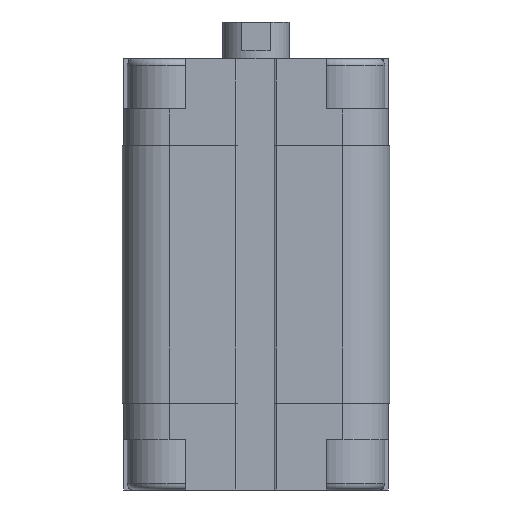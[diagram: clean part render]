
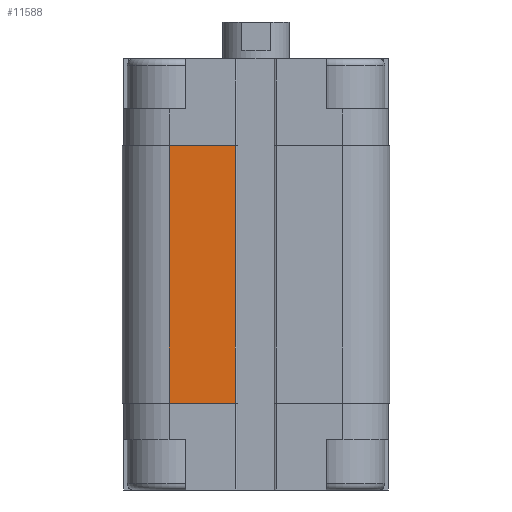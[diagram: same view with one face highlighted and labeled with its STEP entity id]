
A CAD part, front view. The second image highlights one B-rep face of the part: STEP entity #11588.
In plain terms, the highlighted planar face has unit normal (0, -1, 0).
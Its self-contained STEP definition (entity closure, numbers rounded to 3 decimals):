
#332 = VECTOR ( 'NONE', #17755, 1000. ) ;
#538 = CARTESIAN_POINT ( 'NONE',  ( -13., -20., -13. ) ) ;
#1082 = LINE ( 'NONE', #3767, #1457 ) ;
#1457 = VECTOR ( 'NONE', #9366, 1000. ) ;
#1563 = CARTESIAN_POINT ( 'NONE',  ( -13., -20., -51.5 ) ) ;
#2946 = FACE_OUTER_BOUND ( 'NONE', #14978, .T. ) ;
#2991 = EDGE_CURVE ( 'NONE', #15805, #10103, #17935, .T. ) ;
#3445 = LINE ( 'NONE', #11984, #332 ) ;
#3688 = ORIENTED_EDGE ( 'NONE', *, *, #15391, .F. ) ;
#3760 = EDGE_CURVE ( 'NONE', #12721, #13951, #5990, .T. ) ;
#3767 = CARTESIAN_POINT ( 'NONE',  ( -3.1, -20., -51.5 ) ) ;
#4329 = AXIS2_PLACEMENT_3D ( 'NONE', #1563, #16623, #8449 ) ;
#5694 = VECTOR ( 'NONE', #7545, 1000. ) ;
#5990 = LINE ( 'NONE', #11606, #5694 ) ;
#6336 = ORIENTED_EDGE ( 'NONE', *, *, #3760, .T. ) ;
#6546 = CARTESIAN_POINT ( 'NONE',  ( -13., -20., -13. ) ) ;
#7545 = DIRECTION ( 'NONE',  ( 1., 0., 0. ) ) ;
#8449 = DIRECTION ( 'NONE',  ( -1., 0., 0. ) ) ;
#9366 = DIRECTION ( 'NONE',  ( 0., 0., 1. ) ) ;
#9493 = CARTESIAN_POINT ( 'NONE',  ( -3.1, -20., -13. ) ) ;
#10103 = VERTEX_POINT ( 'NONE', #9493 ) ;
#11123 = CARTESIAN_POINT ( 'NONE',  ( -3.1, -20., -51.5 ) ) ;
#11272 = VECTOR ( 'NONE', #12251, 1000. ) ;
#11588 = ADVANCED_FACE ( 'NONE', ( #2946 ), #12774, .T. ) ;
#11606 = CARTESIAN_POINT ( 'NONE',  ( -13., -20., -51.5 ) ) ;
#11984 = CARTESIAN_POINT ( 'NONE',  ( -13., -20., -51.5 ) ) ;
#12111 = ORIENTED_EDGE ( 'NONE', *, *, #2991, .F. ) ;
#12251 = DIRECTION ( 'NONE',  ( 1., 0., 0. ) ) ;
#12721 = VERTEX_POINT ( 'NONE', #13970 ) ;
#12774 = PLANE ( 'NONE',  #4329 ) ;
#13951 = VERTEX_POINT ( 'NONE', #11123 ) ;
#13970 = CARTESIAN_POINT ( 'NONE',  ( -13., -20., -51.5 ) ) ;
#14978 = EDGE_LOOP ( 'NONE', ( #12111, #3688, #6336, #15048 ) ) ;
#15048 = ORIENTED_EDGE ( 'NONE', *, *, #15922, .T. ) ;
#15391 = EDGE_CURVE ( 'NONE', #12721, #15805, #3445, .T. ) ;
#15805 = VERTEX_POINT ( 'NONE', #538 ) ;
#15922 = EDGE_CURVE ( 'NONE', #13951, #10103, #1082, .T. ) ;
#16623 = DIRECTION ( 'NONE',  ( 0., -1., 0. ) ) ;
#17755 = DIRECTION ( 'NONE',  ( 0., 0., 1. ) ) ;
#17935 = LINE ( 'NONE', #6546, #11272 ) ;
